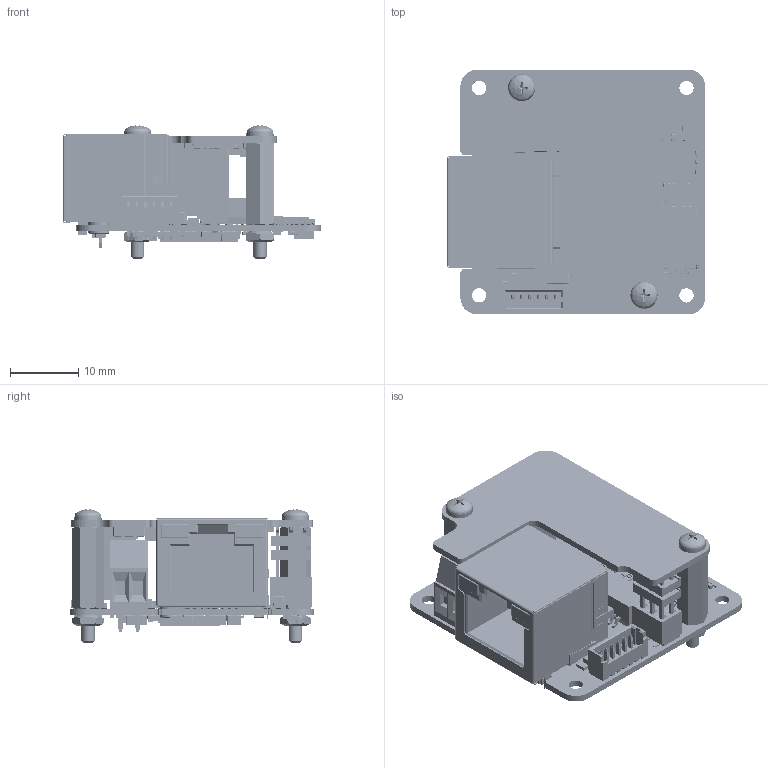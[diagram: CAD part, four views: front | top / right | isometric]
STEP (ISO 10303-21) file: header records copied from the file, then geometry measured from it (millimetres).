
FILE_DESCRIPTION(/* description */ ('ZB PlatinenKam_GigE-4SB_IMX900_PoE add-on'),/* implementation_level */ '2;1');
FILE_NAME(/* name */ 'KSM_306-23-11-00-00_ZB PlatinenKam_GigE-4SB_IMX900_PoE add-on.stp',/* time_stamp */ '2025-01-08T10:56:28+01:00',/* author */ ('khw'),/* organization */ ('TIS/ Germany'),/* preprocessor_version */ 'ST-DEVELOPER v20',/* originating_system */ 'Autodesk Inventor 2025',/* authorisation */ '520025 mm^3');
FILE_SCHEMA (('AUTOMOTIVE_DESIGN { 1 0 10303 214 3 1 1 }'));
Products named in the file (6): 306-23-11-00-00_ZB PlatinenKam_GigE-4SB_IMX900_PoE add-on; Sensorboard_4G-GW0_GigE-4SB_IMX900_16-12-2024; PoE add-on-Board; IA-Distanzbolzen M2x1; Linsenschraube M2x4; Sechskanntmutter M2
Assembly tree (8 placements, depth 2):
  306-23-11-00-00_ZB PlatinenKam_GigE-4SB_IMX900_PoE add-on
    Sensorboard_4G-GW0_GigE-4SB_IMX900_16-12-2024
    PoE add-on-Board
    IA-Distanzbolzen M2x1  x2
    Linsenschraube M2x4  x2
    Sechskanntmutter M2  x2
Bounding box: 37.99 x 36.01 x 19.59 mm (x, y, z)
Volume: 6948.5 mm3; surface area: 11011.1 mm2
Topology: 19 solids, 19 shells, 14363 faces, 33621 edges, 17876 vertices
Faces by surface type: cylinder 5870, plane 5469, sphere 1466, torus 1462, cone 62, bspline 34
Full cylindrical faces by diameter (mm): 0.3 x1, 0.5 x6, 0.739 x1, 1.05 x2, 1.2 x2, 1.567 x4, 1.783 x2, 2 x4, 2.032 x2, 2.1 x6, 2.3 x2
Entity records: 403066 total; most frequent: DIRECTION 72313, CARTESIAN_POINT 65483, ORIENTED_EDGE 63982, EDGE_CURVE 31991, AXIS2_PLACEMENT_3D 26165, LINE 19983, VECTOR 19983, VERTEX_POINT 17771
